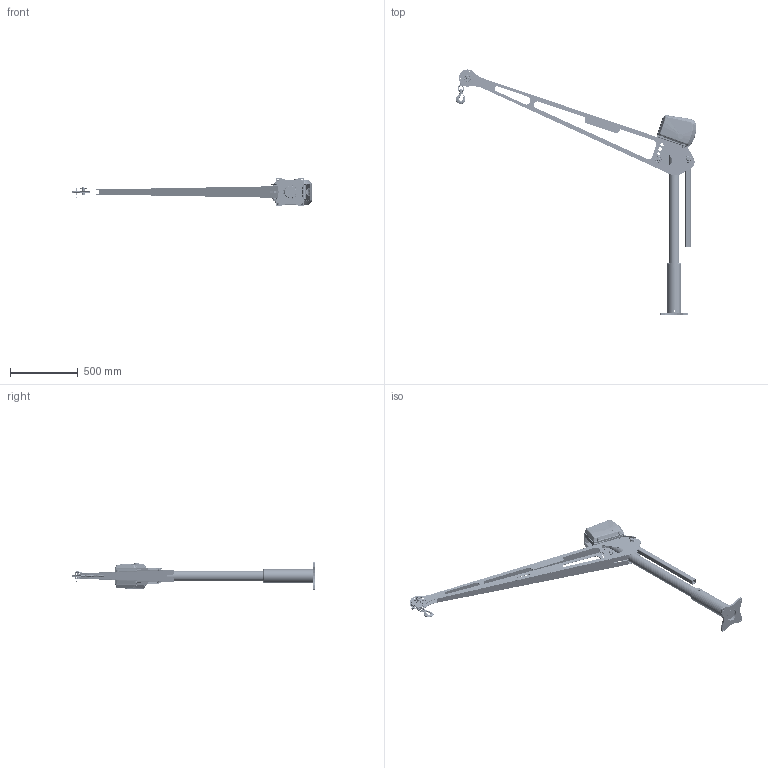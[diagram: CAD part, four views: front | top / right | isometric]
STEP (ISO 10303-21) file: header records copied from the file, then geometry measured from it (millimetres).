
FILE_DESCRIPTION (( 'STEP AP214' ), '1' );
FILE_NAME ('OZXR500DAV.STEP', '2023-04-13T14:51:58', ( '' ), ( '' ), 'SwSTEP 2.0', 'SolidWorks 2021', '' );
FILE_SCHEMA (( 'AUTOMOTIVE_DESIGN' ));
Length unit declared in the file: inch
Products named in the file (103): 304921 Motor Assembly.stp.STEP; Inner Casing.stp.STEP; 204713 Hole Cover.stp.STEP; Wire B.stp.STEP; SXB5001; OZ220040_Left; 206614 SA5000 Cover Right With Pocket.stp.STEP; SD2013; 404842 10T Gear.stp.STEP; Outer Casing_1.stp.STEP; 404862 54T Gear.stp.STEP; 205191 Retaining Ring.stp.STEP; SXB5000; DC10PC5100B; 205337 Screw.stp.STEP; 204012 Bushing.stp.STEP; DRI-14; 204658 Brake Disc Hub.stp.STEP; OZ110025; Outer Casing_2.stp.STEP; Motor.stp.STEP; Spacer.stp.STEP; 404522 Pinion.stp.STEP; OZ220039; 404583 Retainer.stp.STEP; 93560A160_Steel Hex Weld Nut_93560A160; 404540 Top Contact Stud.stp.STEP; 404562 Front Plate Spacer.stp.STEP; 205202 Needle Bearing.stp.STEP; 206612 SA5000 Cover Left.stp.STEP; SD7012; 93560A180_Steel Hex Weld Nut_93560A180; 204701 Clutch Gear.stp.STEP; 404566  Brake Spring Spacer Short.stp.STEP; DC10PC5000B; 205014 .25 Lock Nut.stp.STEP; Wire  G.stp.STEP; OZ210010_Lengthened; SA5000 Assembly (AC-DC winch).STEP; QM4322S-08_35165T64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
Assembly tree (181 placements, depth 5):
  OZXR500DAV
    OZ110024
      OZ210010_Lengthened
      OZ220039
    OZ110025
      OZ110026
        OZ220042
        93560A160_Steel Hex Weld Nut_93560A160  x3
        93560A180_Steel Hex Weld Nut_93560A180  x3
      OZ220040_Left  x2
      OZ220041_Bottom
    DC10PC5000B
      DC10PC5200B
      DC10PC5100B
    SD7012
    HANG-2  x3
    DRI-14
    OZPED3_OZPED3
      SXB5000
        SXB5001
        SXB5003
      SXB5002
      SXB7005
    SD2013  x2
    SA5000 Assembly (AC-DC winch).STEP
      304813 Drive Shaft Assembly.stp.STEP
        404558 Drive Shaft.stp.STEP
        404842 10T Gear.stp.STEP  x5
      304812 Reel Assembly.stp.STEP
        404556 Reel Hub.stp.STEP
        404551 Side Plate Reel.stp.STEP
        404298 Side Gear.stp.STEP
        404862 54T Gear.stp.STEP  x2
      304407 Brake Disc Assembly.stp.STEP
        205187 Roller Clutch Bearing.stp.STEP
          Outer Casing.stp.STEP
          Inner Casing.stp.STEP
          Roller.stp.STEP  x14
        404555 Brake Disc.stp.STEP
        204658 Brake Disc Hub.stp.STEP
        404583 Retainer.stp.STEP
      304921 Motor Assembly.stp.STEP
        Motor.stp.STEP
        Shell.stp.STEP
        Wire holder.stp.STEP
        Wire B.stp.STEP
        Wire  W.stp.STEP
        Wire  G.stp.STEP
      304406 Brake Spring Bend Assembly.stp.STEP  x2
        204659 Brake Spring Bend.stp.STEP
        404560 Brake Pad.stp.STEP
      SA5000 DC CL Cover Assembly.stp.STEP
        206612 SA5000 Cover Left.stp.STEP
        206614 SA5000 Cover Right With Pocket.stp.STEP
      304414 Gear Assembly.stp.STEP
        205201 Needle Bearing Assembly.stp.STEP
          Outer Casing_1.stp.STEP
          Inner Casing_1.stp.STEP
          Roller_1.stp.STEP  x16
        205202 Needle Bearing.stp.STEP
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Bounding box: 1772.7 x 1807.29 x 207.96 mm (x, y, z)
Volume: 6883638.7 mm3; surface area: 3228779 mm2
Topology: 170 solids, 170 shells, 9640 faces, 26707 edges, 17399 vertices
Faces by surface type: cylinder 5561, plane 2094, torus 740, cone 704, bspline 493, sphere 48
Full cylindrical faces by diameter (mm): 4.763 x2, 9.525 x2, 10.754 x2, 11.113 x2, 12.7 x2, 15.875 x4
Entity records: 317229 total; most frequent: CARTESIAN_POINT 126087, ORIENTED_EDGE 41082, DIRECTION 38012, EDGE_CURVE 20541, AXIS2_PLACEMENT_3D 15183, VERTEX_POINT 13424, CIRCLE 8115, EDGE_LOOP 7733
